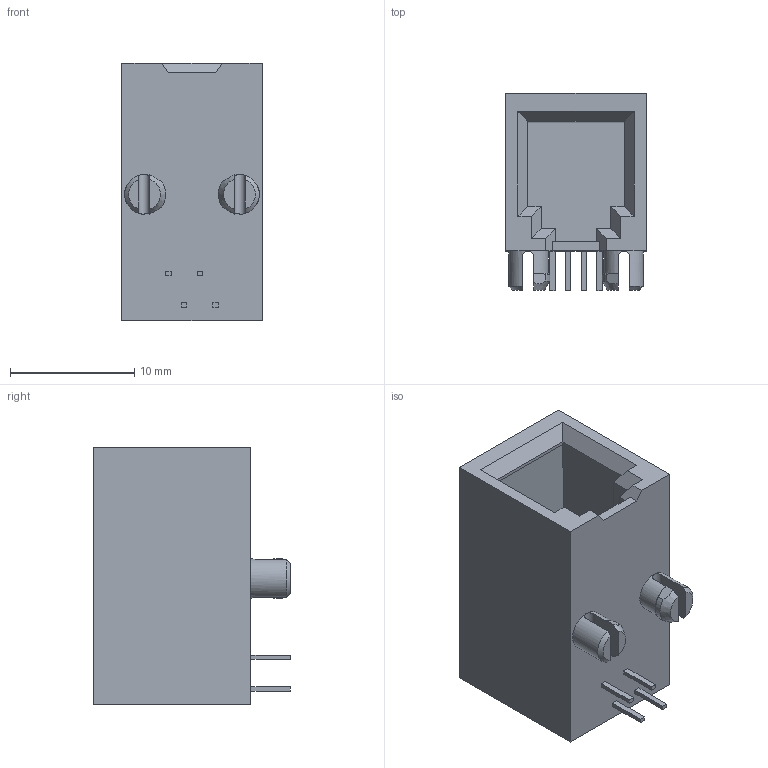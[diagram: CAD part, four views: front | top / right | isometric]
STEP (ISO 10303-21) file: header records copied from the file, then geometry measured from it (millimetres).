
FILE_DESCRIPTION( ( 'STEP AP214' ), '1' );
FILE_NAME( 'C:/Users/KMIROS~1/AppData/Local/Temp/psolqas_2196_33.stp', '2022-01-10T15:07:49', ( 'License CC BY-ND 4.0' ), ( 'CADENAS' ), ' ', 'PARTsolutions', ' ' );
FILE_SCHEMA( ( 'AUTOMOTIVE_DESIGN { 1 0 10303 214 1 1 1 1 }' ) );
Length unit declared in the file: metre
Products named in the file (1): 1
Bounding box: 11.3 x 15.82 x 20.7 mm (x, y, z)
Volume: 2229.6 mm3; surface area: 1753.6 mm2
Topology: 1 solids, 1 shells, 83 faces, 211 edges, 136 vertices
Faces by surface type: plane 65, cone 10, cylinder 8
Entity records: 2626 total; most frequent: CARTESIAN_POINT 653, ORIENTED_EDGE 422, DIRECTION 367, EDGE_CURVE 211, LINE 159, VECTOR 159, VERTEX_POINT 136, AXIS2_PLACEMENT_3D 104
